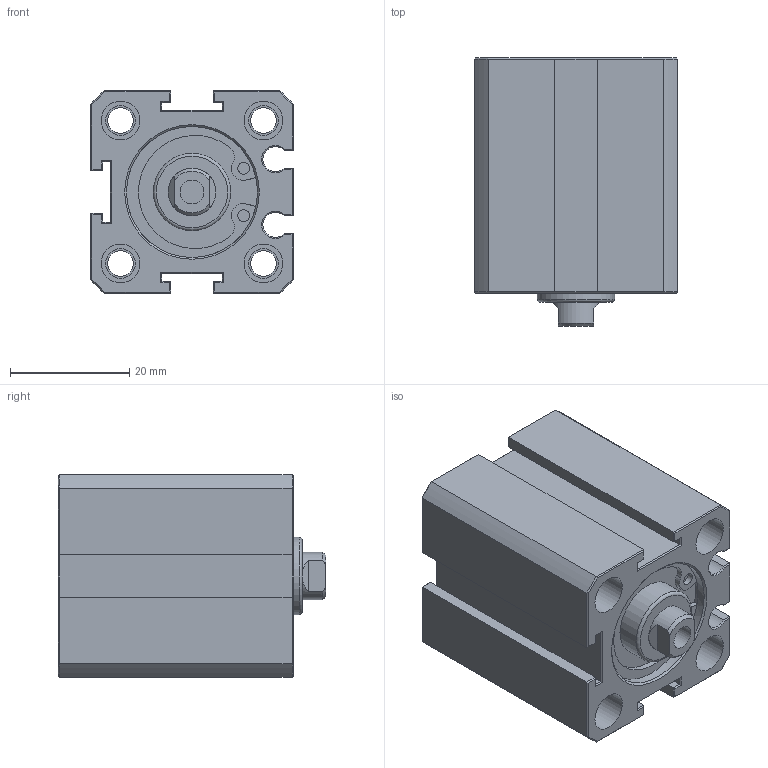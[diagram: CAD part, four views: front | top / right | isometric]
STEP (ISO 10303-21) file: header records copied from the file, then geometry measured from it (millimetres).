
FILE_DESCRIPTION(/* description */ (''),/* implementation_level */ '2;1');
FILE_NAME(/* name */ 'AJC-SDM20X10N',/* time_stamp */ '2019-07-05T10:07:05+08:00',/* author */ ('JEFF HUANG'),/* organization */ ('TAIWAN AMAC CLAMP INDUSTRIAL CO., LTD.'),/* preprocessor_version */ 'ST-DEVELOPER v16.7',/* originating_system */ 'DEX',/* authorisation */ $);
FILE_SCHEMA (('AUTOMOTIVE_DESIGN {1 0 10303 214 3 1 1}'));
Length unit declared in the file: millimetre
Products named in the file (1): AJC-SDM20X10N
Bounding box: 34 x 45 x 34 mm (x, y, z)
Volume: 36207.8 mm3; surface area: 12880.1 mm2
Topology: 1 solids, 1 shells, 213 faces, 460 edges, 277 vertices
Faces by surface type: plane 144, cylinder 51, cone 16, torus 2
Full cylindrical faces by diameter (mm): 2 x4, 4 x1, 4.3 x4, 5 x10, 6.5 x8, 13 x2, 22 x2
Entity records: 7025 total; most frequent: CARTESIAN_POINT 994, DIRECTION 948, ORIENTED_EDGE 844, EDGE_CURVE 422, AXIS2_PLACEMENT_3D 340, EDGE_LOOP 284, FACE_BOUND 284, VERTEX_POINT 274
